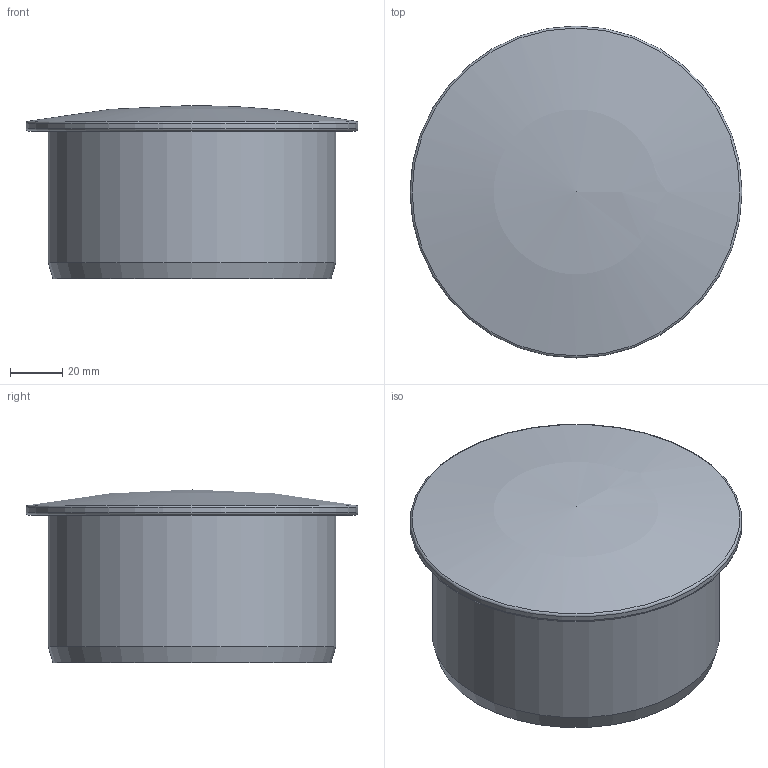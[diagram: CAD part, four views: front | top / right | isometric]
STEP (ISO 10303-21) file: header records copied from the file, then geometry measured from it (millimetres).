
FILE_DESCRIPTION(/* description */ (''),/* implementation_level */ '2;1');
FILE_NAME(/* name */ 'H:\Geberit-Teile\Export\Muffenstopfen ART\stp\390528.stp',/* time_stamp */ '2014-04-16T16:40:25+02:00',/* author */ ('seihe2'),/* organization */ (''),/* preprocessor_version */ 'ST-DEVELOPER v15.2',/* originating_system */ 'Autodesk Inventor 2014',/* authorisation */ '');
FILE_SCHEMA (('AUTOMOTIVE_DESIGN { 1 0 10303 214 3 1 1 }'));
Length unit declared in the file: millimetre
Products named in the file (1): 390528
Bounding box: 127.2 x 127.2 x 66.3 mm (x, y, z)
Volume: 116722.3 mm3; surface area: 64703.3 mm2
Topology: 1 solids, 1 shells, 10 faces, 21 edges, 13 vertices
Faces by surface type: cylinder 3, sphere 2, torus 2, plane 2, cone 1
Full cylindrical faces by diameter (mm): 103 x1, 110.2 x1, 127.2 x1
Entity records: 225 total; most frequent: DIRECTION 40, CARTESIAN_POINT 29, AXIS2_PLACEMENT_3D 20, EDGE_LOOP 18, ORIENTED_EDGE 18, STYLED_ITEM 11, FACE_OUTER_BOUND 10, ADVANCED_FACE 10
